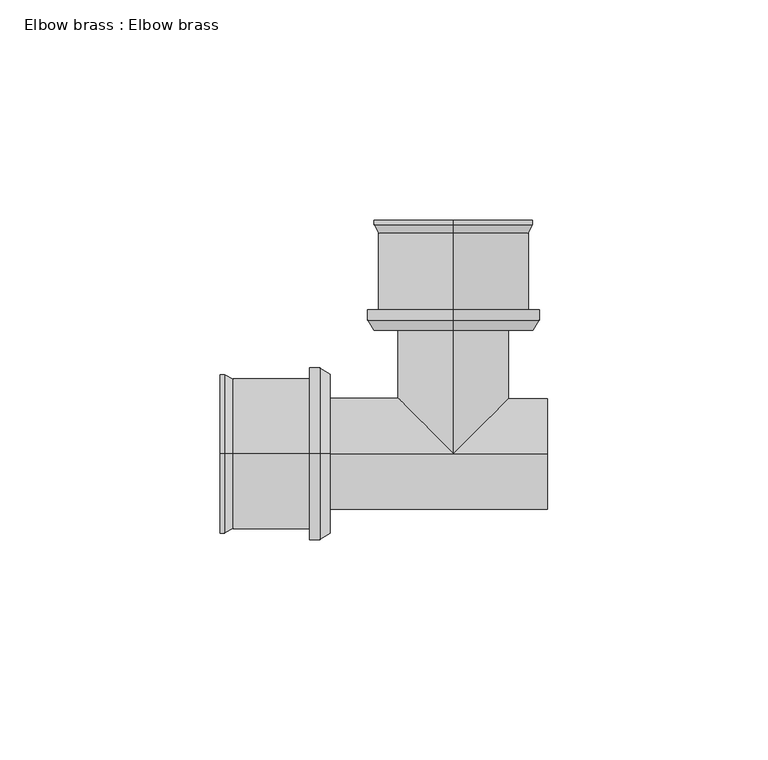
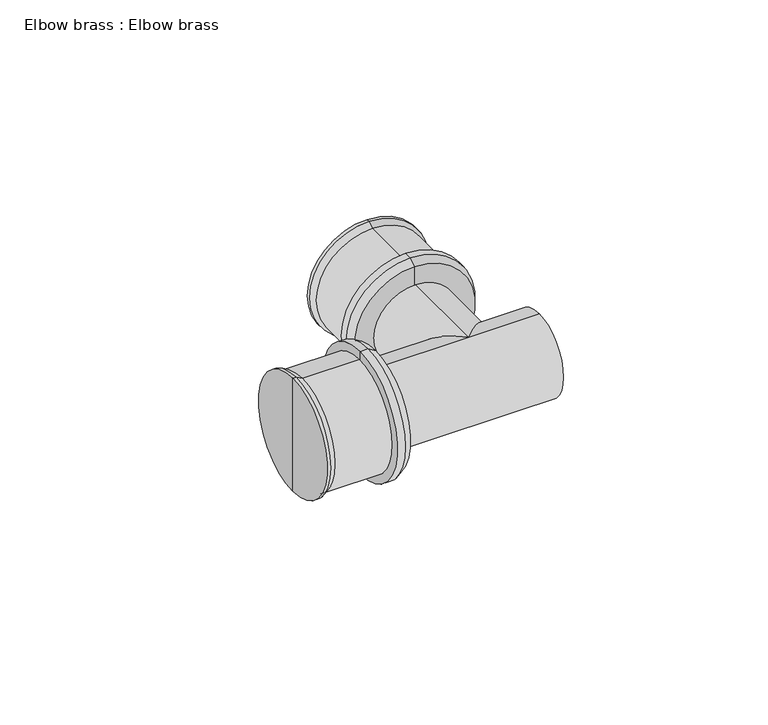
"""IFC4 building model written with IfcOpenShell, lengths in millimetres: pipe fitting geometry, Elbow brass : Elbow brass."""

from ifc_helpers import new_model, si_unit, frame, origin, place, context, project, spatial, polyline, circle_curve, ellipse_curve, source, transform, mapped, element, save
from ifc_brep_helpers import plane_surface, cylinder_surface, revolved_surface, advanced_brep


def elbow_brass_elbow_brass_801f110a(model_context):
    return source(origin(), model_context, "Body", "AdvancedBrep", [
        advanced_brep(
        [(-28.0, 0.0, 0.0), (-28.0, 0.0, 18.1432269), (-28.0, 0.0, -18.1432269), (-32.7, 0.0, -19.5), (-32.7, 0.0, 19.5), (-32.7, 0.0, 0.0), (-30.35, 0.0, -19.5), (-30.35, 0.0, 19.5)],
        [
            (0, 1),
            (1, 2, circle_curve(frame((-28.0, 0.0, 0.0), z_axis=(1.0, 0.0, 0.0), x_axis=(0.0, 0.0, 1.0)), 18.1432269)),
            (2, 0),
            (2, 1, circle_curve(frame((-28.0, 0.0, 0.0), z_axis=(1.0, 0.0, 0.0), x_axis=(0.0, 0.0, 1.0)), 18.1432269)),
            (3, 4, circle_curve(frame((-32.7, 0.0, 0.0), z_axis=(-1.0, 0.0, 0.0), x_axis=(0.0, 0.0, 1.0)), 19.5)),
            (4, 5),
            (5, 3),
            (4, 3, circle_curve(frame((-32.7, 0.0, 0.0), z_axis=(-1.0, 0.0, 0.0), x_axis=(0.0, 0.0, 1.0)), 19.5)),
            (6, 7, circle_curve(frame((-30.35, 0.0, 0.0), z_axis=(-1.0, 0.0, 0.0), x_axis=(0.0, 0.0, 1.0)), 19.5)),
            (7, 4),
            (3, 6),
            (7, 6, circle_curve(frame((-30.35, 0.0, 0.0), z_axis=(-1.0, 0.0, 0.0), x_axis=(0.0, 0.0, 1.0)), 19.5)),
            (1, 7),
            (6, 2),
        ],
        [
            plane_surface(frame((-28.0, 0.0, 0.0), z_axis=(1.0, 0.0, 0.0), x_axis=(0.0, 0.0, 1.0))),
            plane_surface(frame((-32.7, 0.0, 0.0), z_axis=(-1.0, 0.0, 0.0), x_axis=(0.0, 0.0, 1.0))),
            cylinder_surface(frame((-29.0, 0.0, 0.0), z_axis=(1.0, 0.0, 0.0), x_axis=(0.0, 0.0, 1.0)), 19.5),
            revolved_surface(polyline([(-30.35, 0.0, 19.5), (-28.0, 0.0, 18.1432269)]), (-29.0, 0.0, 0.0), (1.0, 0.0, 0.0)),
        ],
        [
            (0, [[1, 2, 3]]),
            (0, [[-3, 4, -1]]),
            (1, [[5, 6, 7]]),
            (1, [[8, -7, -6]]),
            (2, [[9, 10, -5, 11]]),
            (2, [[12, -11, -8, -10]]),
            (3, [[-2, 13, -9, 14]]),
            (3, [[-4, -14, -12, -13]]),
        ],
    ),
        advanced_brep(
        [(-32.7, 0.0, -17.0), (-32.7, 0.0, 17.0), (-50.0, 0.0, 17.0), (-50.0, 0.0, -17.0), (-53.0, 0.0, -18.0), (-53.0, 0.0, 18.0), (-53.0, 0.0, 0.0), (-32.7, 0.0, 0.0), (-52.0, 0.0, -18.0), (-52.0, 0.0, 18.0)],
        [
            (0, 1, circle_curve(frame((-32.7, 0.0, 0.0), z_axis=(-1.0, 0.0, 0.0), x_axis=(0.0, 0.0, 1.0)), 17.0)),
            (1, 2),
            (2, 3, circle_curve(frame((-50.0, 0.0, 0.0), z_axis=(1.0, 0.0, 0.0), x_axis=(0.0, 0.0, 1.0)), 17.0)),
            (3, 0),
            (1, 0, circle_curve(frame((-32.7, 0.0, 0.0), z_axis=(-1.0, 0.0, 0.0), x_axis=(0.0, 0.0, 1.0)), 17.0)),
            (3, 2, circle_curve(frame((-50.0, 0.0, 0.0), z_axis=(1.0, 0.0, 0.0), x_axis=(0.0, 0.0, 1.0)), 17.0)),
            (4, 5, circle_curve(frame((-53.0, 0.0, 0.0), z_axis=(-1.0, 0.0, 0.0), x_axis=(0.0, 0.0, 1.0)), 18.0)),
            (5, 6),
            (6, 4),
            (5, 4, circle_curve(frame((-53.0, 0.0, 0.0), z_axis=(-1.0, 0.0, 0.0), x_axis=(0.0, 0.0, 1.0)), 18.0)),
            (7, 1),
            (0, 7),
            (8, 9, circle_curve(frame((-52.0, 0.0, 0.0), z_axis=(-1.0, 0.0, 0.0), x_axis=(0.0, 0.0, 1.0)), 18.0)),
            (9, 5),
            (4, 8),
            (9, 8, circle_curve(frame((-52.0, 0.0, 0.0), z_axis=(-1.0, 0.0, 0.0), x_axis=(0.0, 0.0, 1.0)), 18.0)),
            (2, 9),
            (8, 3),
        ],
        [
            cylinder_surface(frame((1882.8038476, 0.0, 0.0), z_axis=(1.0, 0.0, 0.0), x_axis=(0.0, 0.0, 1.0)), 17.0),
            plane_surface(frame((-53.0, 0.0, 0.0), z_axis=(-1.0, 0.0, 0.0), x_axis=(0.0, 0.0, 1.0))),
            plane_surface(frame((-32.7, 0.0, 0.0), z_axis=(1.0, 0.0, 0.0), x_axis=(0.0, 0.0, 1.0))),
            cylinder_surface(frame((1882.8038476, 0.0, 0.0), z_axis=(1.0, 0.0, 0.0), x_axis=(0.0, 0.0, 1.0)), 18.0),
            revolved_surface(polyline([(-52.0, 0.0, 18.0), (-50.0, 0.0, 17.0)]), (1882.8038476, 0.0, 0.0), (1.0, 0.0, 0.0)),
        ],
        [
            (0, [[1, 2, 3, 4]]),
            (0, [[5, -4, 6, -2]]),
            (1, [[7, 8, 9]]),
            (1, [[10, -9, -8]]),
            (2, [[11, -1, 12]]),
            (2, [[-12, -5, -11]]),
            (3, [[13, 14, -7, 15]]),
            (3, [[16, -15, -10, -14]]),
            (4, [[-3, 17, -13, 18]]),
            (4, [[-6, -18, -16, -17]]),
        ],
    ),
        advanced_brep(
        [(0.0, 28.0, 0.0), (0.0, 28.0, -18.1432269), (0.0, 28.0, 18.1432269), (0.0, 32.7, 19.5), (0.0, 32.7, -19.5), (0.0, 32.7, 0.0), (0.0, 30.35, 19.5), (0.0, 30.35, -19.5)],
        [
            (0, 1),
            (1, 2, circle_curve(frame((0.0, 28.0, 0.0), z_axis=(0.0, -1.0, 0.0), x_axis=(0.0, 0.0, -1.0)), 18.1432269)),
            (2, 0),
            (2, 1, circle_curve(frame((0.0, 28.0, 0.0), z_axis=(0.0, -1.0, 0.0), x_axis=(0.0, 0.0, -1.0)), 18.1432269)),
            (3, 4, circle_curve(frame((0.0, 32.7, 0.0), z_axis=(0.0, 1.0, 0.0), x_axis=(0.0, 0.0, -1.0)), 19.5)),
            (4, 5),
            (5, 3),
            (4, 3, circle_curve(frame((0.0, 32.7, 0.0), z_axis=(0.0, 1.0, 0.0), x_axis=(0.0, 0.0, -1.0)), 19.5)),
            (6, 7, circle_curve(frame((0.0, 30.35, 0.0), z_axis=(0.0, 1.0, 0.0), x_axis=(0.0, 0.0, -1.0)), 19.5)),
            (7, 4),
            (3, 6),
            (7, 6, circle_curve(frame((0.0, 30.35, 0.0), z_axis=(0.0, 1.0, 0.0), x_axis=(0.0, 0.0, -1.0)), 19.5)),
            (1, 7),
            (6, 2),
        ],
        [
            plane_surface(frame((0.0, 28.0, 0.0), z_axis=(0.0, -1.0, 0.0), x_axis=(0.0, 0.0, -1.0))),
            plane_surface(frame((0.0, 32.7, 0.0), z_axis=(0.0, 1.0, 0.0), x_axis=(0.0, 0.0, -1.0))),
            cylinder_surface(frame((0.0, 29.0, 0.0), z_axis=(0.0, -1.0, 0.0), x_axis=(0.0, 0.0, -1.0)), 19.5),
            revolved_surface(polyline([(0.0, 30.35, -19.5), (0.0, 28.0, -18.1432269)]), (0.0, 29.0, 0.0), (0.0, -1.0, 0.0)),
        ],
        [
            (0, [[1, 2, 3]]),
            (0, [[-3, 4, -1]]),
            (1, [[5, 6, 7]]),
            (1, [[8, -7, -6]]),
            (2, [[9, 10, -5, 11]]),
            (2, [[12, -11, -8, -10]]),
            (3, [[-2, 13, -9, 14]]),
            (3, [[-4, -14, -12, -13]]),
        ],
    ),
        advanced_brep(
        [(0.0, 32.7, 17.0), (0.0, 32.7, -17.0), (0.0, 50.0, -17.0), (0.0, 50.0, 17.0), (0.0, 53.0, 18.0), (0.0, 53.0, -18.0), (0.0, 53.0, 0.0), (0.0, 32.7, 0.0), (0.0, 52.0, 18.0), (0.0, 52.0, -18.0)],
        [
            (0, 1, circle_curve(frame((0.0, 32.7, 0.0), z_axis=(0.0, 1.0, 0.0), x_axis=(0.0, 0.0, -1.0)), 17.0)),
            (1, 2),
            (2, 3, circle_curve(frame((0.0, 50.0, 0.0), z_axis=(0.0, -1.0, 0.0), x_axis=(0.0, 0.0, -1.0)), 17.0)),
            (3, 0),
            (1, 0, circle_curve(frame((0.0, 32.7, 0.0), z_axis=(0.0, 1.0, 0.0), x_axis=(0.0, 0.0, -1.0)), 17.0)),
            (3, 2, circle_curve(frame((0.0, 50.0, 0.0), z_axis=(0.0, -1.0, 0.0), x_axis=(0.0, 0.0, -1.0)), 17.0)),
            (4, 5, circle_curve(frame((0.0, 53.0, 0.0), z_axis=(0.0, 1.0, 0.0), x_axis=(0.0, 0.0, -1.0)), 18.0)),
            (5, 6),
            (6, 4),
            (5, 4, circle_curve(frame((0.0, 53.0, 0.0), z_axis=(0.0, 1.0, 0.0), x_axis=(0.0, 0.0, -1.0)), 18.0)),
            (7, 1),
            (0, 7),
            (8, 9, circle_curve(frame((0.0, 52.0, 0.0), z_axis=(0.0, 1.0, 0.0), x_axis=(0.0, 0.0, -1.0)), 18.0)),
            (9, 5),
            (4, 8),
            (9, 8, circle_curve(frame((0.0, 52.0, 0.0), z_axis=(0.0, 1.0, 0.0), x_axis=(0.0, 0.0, -1.0)), 18.0)),
            (2, 9),
            (8, 3),
        ],
        [
            cylinder_surface(frame((0.0, -1882.8038476, 0.0), z_axis=(0.0, -1.0, 0.0), x_axis=(0.0, 0.0, -1.0)), 17.0),
            plane_surface(frame((0.0, 53.0, 0.0), z_axis=(0.0, 1.0, 0.0), x_axis=(0.0, 0.0, -1.0))),
            plane_surface(frame((0.0, 32.7, 0.0), z_axis=(0.0, -1.0, 0.0), x_axis=(0.0, 0.0, -1.0))),
            cylinder_surface(frame((0.0, -1882.8038476, 0.0), z_axis=(0.0, -1.0, 0.0), x_axis=(0.0, 0.0, -1.0)), 18.0),
            revolved_surface(polyline([(0.0, 52.0, -18.0), (0.0, 50.0, -17.0)]), (0.0, -1882.8038476, 0.0), (0.0, -1.0, 0.0)),
        ],
        [
            (0, [[1, 2, 3, 4]]),
            (0, [[5, -4, 6, -2]]),
            (1, [[7, 8, 9]]),
            (1, [[10, -9, -8]]),
            (2, [[11, -1, 12]]),
            (2, [[-12, -5, -11]]),
            (3, [[13, 14, -7, 15]]),
            (3, [[16, -15, -10, -14]]),
            (4, [[-3, 17, -13, 18]]),
            (4, [[-6, -18, -16, -17]]),
        ],
    ),
        advanced_brep(
        [(21.3333333, 0.0, -12.6), (21.3333333, 0.0, 12.6), (-29.0, 0.0, -12.6), (-29.0, 0.0, 12.6), (0.0, 0.0, -12.6), (0.0, 0.0, 12.6), (0.0, 29.0, -12.6), (0.0, 29.0, 12.6)],
        [
            (0, 1, circle_curve(frame((21.3333333, 0.0, 0.0), z_axis=(1.0, 0.0, 0.0), x_axis=(0.0, 0.0, 1.0)), 12.6)),
            (1, 0, circle_curve(frame((21.3333333, 0.0, 0.0), z_axis=(1.0, 0.0, 0.0), x_axis=(0.0, 0.0, 1.0)), 12.6)),
            (2, 3, circle_curve(frame((-29.0, 0.0, 0.0), z_axis=(-1.0, 0.0, 0.0), x_axis=(0.0, 0.0, 1.0)), 12.6)),
            (3, 2, circle_curve(frame((-29.0, 0.0, 0.0), z_axis=(-1.0, 0.0, 0.0), x_axis=(0.0, 0.0, 1.0)), 12.6)),
            (0, 4),
            (4, 5, ellipse_curve(frame((0.0, 0.0, 0.0), z_axis=(0.7071067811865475, -0.7071067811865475, 0.0), x_axis=(0.7071067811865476, 0.7071067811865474, 0.0)), 17.8190909, 12.6)),
            (5, 1),
            (3, 5),
            (5, 4, ellipse_curve(frame((0.0, 0.0, 0.0), z_axis=(-0.7071067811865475, -0.7071067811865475, 0.0), x_axis=(0.7071067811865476, -0.7071067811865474, 0.0)), 17.8190909, 12.6)),
            (4, 2),
            (6, 7, circle_curve(frame((0.0, 29.0, 0.0), z_axis=(0.0, 1.0, 0.0), x_axis=(0.0, 0.0, 1.0)), 12.6)),
            (7, 6, circle_curve(frame((0.0, 29.0, 0.0), z_axis=(0.0, 1.0, 0.0), x_axis=(0.0, 0.0, 1.0)), 12.6)),
            (7, 5),
            (4, 6),
        ],
        [
            plane_surface(frame((21.3333333, 0.0, 12.6), z_axis=(1.0, 0.0, 0.0), x_axis=(0.0, -1.0, 0.0))),
            plane_surface(frame((-29.0, 0.0, 12.6), z_axis=(-1.0, 0.0, 0.0), x_axis=(0.0, 1.0, 0.0))),
            cylinder_surface(frame((-29.0, 0.0, 0.0), z_axis=(1.0, 0.0, 0.0), x_axis=(0.0, 0.0, 1.0)), 12.6),
            plane_surface(frame((0.0, 29.0, 12.6), z_axis=(0.0, 1.0, 0.0), x_axis=(1.0, 0.0, 0.0))),
            cylinder_surface(frame((0.0, 29.0, 0.0), z_axis=(0.0, -1.0, 0.0), x_axis=(0.0, 0.0, 1.0)), 12.6),
        ],
        [
            (0, [[1, 2]]),
            (1, [[3, 4]]),
            (2, [[-1, 5, 6, 7]]),
            (2, [[-4, 8, 9, 10]]),
            (2, [[-2, -7, -8, -3, -10, -5]]),
            (3, [[11, 12]]),
            (4, [[-12, 13, -6, 14]]),
            (4, [[-11, -14, -9, -13]]),
        ],
    ),
    ])


if __name__ == "__main__":
    model = new_model("IFC4")
    model_context = context("Model", 3, world=origin())
    ifc_project = project(units=[si_unit("LENGTHUNIT", "METRE", prefix="MILLI")], contexts=[model_context])
    site = spatial("IfcSite", under=ifc_project)
    building = spatial("IfcBuilding", under=site)
    placement = place(None, origin())
    elbow_brass_elbow_brass_shape = elbow_brass_elbow_brass_801f110a(model_context)
    element("IfcPipeFitting", 1, ObjectType="Elbow brass : Elbow brass", at=placement, inside=building, context=model_context, shape_type="MappedRepresentation", body=[
        mapped(elbow_brass_elbow_brass_shape, transform((0.0, 0.0, 0.0), x_axis=(1.0, 0.0, 0.0), y_axis=(0.0, 1.0, 0.0), z_axis=(0.0, 0.0, 1.0))),
    ])
    save(model, "model.ifc")
